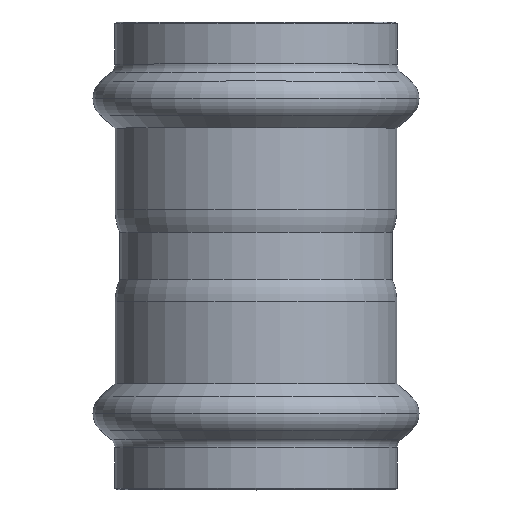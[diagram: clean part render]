
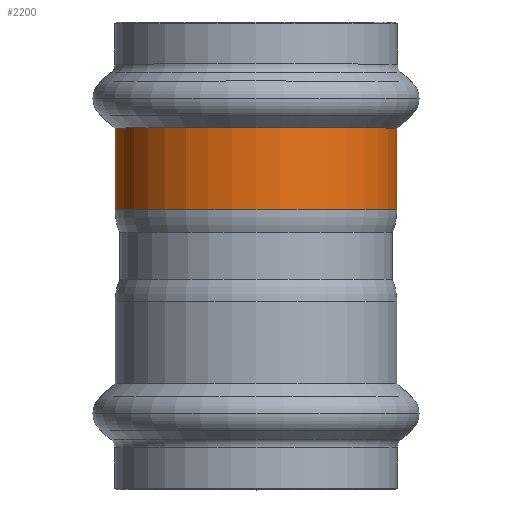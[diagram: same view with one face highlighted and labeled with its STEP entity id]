
A CAD part, top view. The second image highlights one B-rep face of the part: STEP entity #2200.
In plain terms, the highlighted cylindrical face has radius 19.15 mm (diameter 38.3 mm), a partial arc.
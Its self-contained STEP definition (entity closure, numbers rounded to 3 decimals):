
#890=CARTESIAN_POINT('',(11.856,40.293,0.));
#900=VERTEX_POINT('',#890);
#950=CARTESIAN_POINT('',(31.006,40.293,0.));
#960=DIRECTION('',(0.,1.,0.));
#970=DIRECTION('',(1.,0.,0.));
#980=AXIS2_PLACEMENT_3D('',#950,#960,#970);
#990=CIRCLE('',#980,19.15);
#1000=CARTESIAN_POINT('',(50.156,40.293,0.));
#1010=VERTEX_POINT('',#1000);
#1020=EDGE_CURVE('',#900,#1010,#990,.T.);
#1890=CARTESIAN_POINT('',(31.006,45.854,0.));
#1900=DIRECTION('',(0.,1.,0.));
#1910=DIRECTION('',(1.,0.,0.));
#1920=AXIS2_PLACEMENT_3D('',#1890,#1900,#1910);
#1930=CYLINDRICAL_SURFACE('',#1920,19.15);
#1940=CARTESIAN_POINT('',(50.156,45.854,0.));
#1950=DIRECTION('',(0.,1.,0.));
#1960=VECTOR('',#1950,1.);
#1970=LINE('',#1940,#1960);
#1980=CARTESIAN_POINT('',(50.156,51.414,0.));
#1990=VERTEX_POINT('',#1980);
#2000=EDGE_CURVE('',#1010,#1990,#1970,.T.);
#2010=ORIENTED_EDGE('',*,*,#2000,.T.);
#2020=ORIENTED_EDGE('',*,*,#1020,.T.);
#2030=CARTESIAN_POINT('',(11.856,45.854,
0.));
#2040=DIRECTION('',(0.,1.,0.));
#2050=VECTOR('',#2040,1.);
#2060=LINE('',#2030,#2050);
#2070=CARTESIAN_POINT('',(11.856,51.414,
0.));
#2080=VERTEX_POINT('',#2070);
#2090=EDGE_CURVE('',#900,#2080,#2060,.T.);
#2100=ORIENTED_EDGE('',*,*,#2090,.F.);
#2110=CARTESIAN_POINT('',(31.006,51.414,0.));
#2120=DIRECTION('',(0.,1.,0.));
#2130=DIRECTION('',(1.,0.,0.));
#2140=AXIS2_PLACEMENT_3D('',#2110,#2120,#2130);
#2150=CIRCLE('',#2140,19.15);
#2160=EDGE_CURVE('',#2080,#1990,#2150,.T.);
#2170=ORIENTED_EDGE('',*,*,#2160,.F.);
#2180=EDGE_LOOP('',(#2170,#2100,#2020,#2010));
#2190=FACE_OUTER_BOUND('',#2180,.T.);
#2200=ADVANCED_FACE('',(#2190),#1930,.T.);
